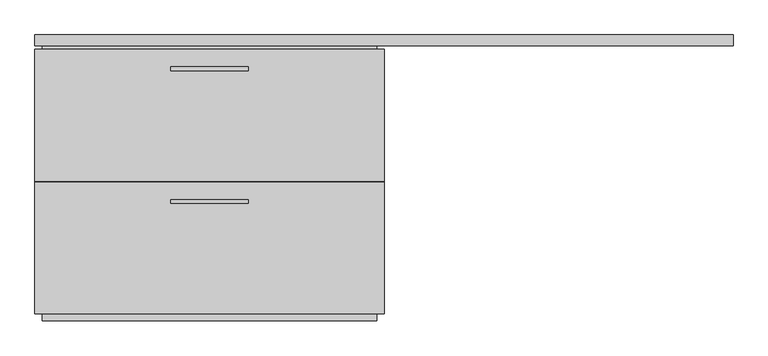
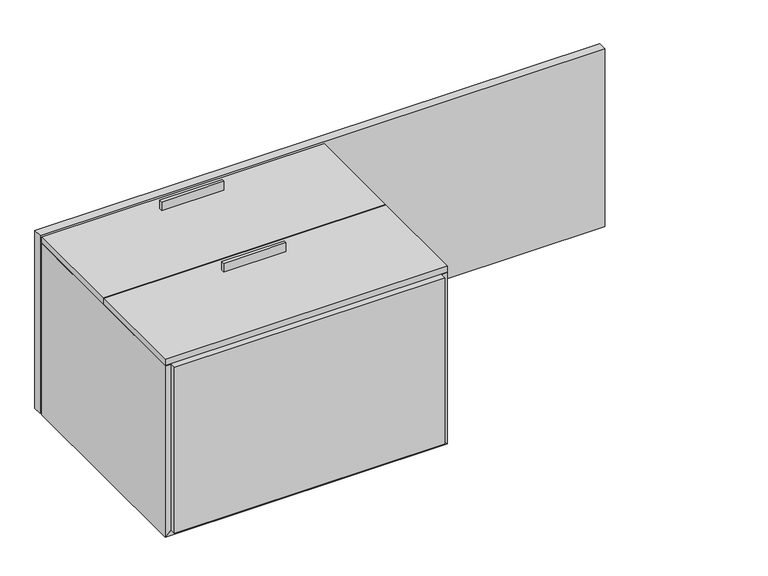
"""IFC4 building model written with IfcOpenShell, lengths in millimetres: proxy geometry, BASYS^CREDENZA 5B 29-72 FF BF STORAGE."""

from ifc_helpers import new_model, si_unit, frame, origin, origin_with_axes, place, context, project, spatial, polyline, outline, extrude, source, transform, mapped, element, save


def generic_models_b663e8fc(model_context):
    return source(origin(), model_context, "Body", "SweptSolid", [
        extrude(outline(polyline([(558.2, 655.4), (356.2, 655.4), (356.2, 665.4), (558.2, 665.4), (558.2, 655.4)])), frame((0.0, 0.0, 609.6), z_axis=(0.0, 0.0, 1.0), x_axis=(1.0, 0.0, 0.0)), (0.0, 0.0, 1.0), 30.0),
        extrude(outline(polyline([(558.2, 308.134375), (356.2, 308.134375), (356.2, 318.134375), (558.2, 318.134375), (558.2, 308.134375)])), frame((0.0, 0.0, 609.6), z_axis=(0.0, 0.0, 1.0), x_axis=(1.0, 0.0, 0.0)), (0.0, 0.0, 1.0), 30.0),
        extrude(outline(polyline([(587.375, 0.0), (0.0, 0.0), (19.05, 19.05), (587.375, 19.05), (587.375, 0.0)])), frame((0.0, 19.05, 0.0), z_axis=(0.0, 1.0, 0.0), x_axis=(0.0, 0.0, 1.0)), (0.0, 0.0, 1.0), 692.15),
        extrude(outline(polyline([(457.2, 457.2), (0.0, 0.0), (0.0, 914.4), (457.2, 457.2)])), frame((0.0, 19.05, 0.0), z_axis=(0.0, 1.0, 0.0), x_axis=(0.0, 0.0, 1.0)), (0.0, 0.0, 1.0), 692.15),
        extrude(outline(polyline([(19.05, 0.0), (19.05, 38.1), (895.35, 38.1), (895.35, 0.0), (19.05, 0.0)])), frame((0.0, 0.0, 19.05), z_axis=(0.0, 0.0, 1.0), x_axis=(1.0, 0.0, 0.0)), (0.0, 0.0, 1.0), 568.325),
        extrude(outline(polyline([(587.375, 914.4), (587.375, 895.35), (19.05, 895.35), (0.0, 914.4), (587.375, 914.4)])), frame((0.0, 19.05, 0.0), z_axis=(0.0, 1.0, 0.0), x_axis=(0.0, 0.0, 1.0)), (0.0, 0.0, 1.0), 692.15),
        extrude(outline(polyline([(914.4, 366.315625), (0.0, 366.315625), (0.0, 711.2), (914.4, 711.2), (914.4, 366.315625)])), frame((0.0, 0.0, 590.55), z_axis=(0.0, 0.0, 1.0), x_axis=(1.0, 0.0, 0.0)), (0.0, 0.0, 1.0), 19.05),
        extrude(outline(polyline([(0.0, 363.934375), (914.4, 363.934375), (914.4, 19.05), (0.0, 19.05), (0.0, 363.934375)])), frame((0.0, 0.0, 590.55), z_axis=(0.0, 0.0, 1.0), x_axis=(1.0, 0.0, 0.0)), (0.0, 0.0, 1.0), 19.05),
        extrude(outline(polyline([(895.35, 720.725), (895.35, 692.15), (19.05, 692.15), (19.05, 720.725), (895.35, 720.725)])), frame((0.0, 0.0, 19.05), z_axis=(0.0, 0.0, 1.0), x_axis=(1.0, 0.0, 0.0)), (0.0, 0.0, 1.0), 568.325),
        extrude(outline(polyline([(1828.8, 720.725), (0.0, 720.725), (0.0, 749.3), (1828.8, 749.3), (1828.8, 720.725)])), origin_with_axes(), (0.0, 0.0, 1.0), 609.6),
    ])


if __name__ == "__main__":
    model = new_model("IFC4")
    model_context = context("Model", 3, world=origin())
    ifc_project = project(units=[si_unit("LENGTHUNIT", "METRE", prefix="MILLI")], contexts=[model_context])
    site = spatial("IfcSite", under=ifc_project)
    building = spatial("IfcBuilding", under=site)
    placement = place(None, origin())
    generic_models_shape = generic_models_b663e8fc(model_context)
    element("IfcBuildingElementProxy", 1, Name="BASYS^CREDENZA 5B 29-72 FF BF STORAGE", ObjectType="BASYS^CREDENZA 5B 29-72 FF BF STORAGE", at=placement, inside=building, context=model_context, shape_type="MappedRepresentation", body=[
        mapped(generic_models_shape, transform((0.0, 0.0, 0.0), x_axis=(1.0, 0.0, 0.0), y_axis=(0.0, 1.0, 0.0), z_axis=(0.0, 0.0, 1.0))),
    ])
    save(model, "model.ifc")
